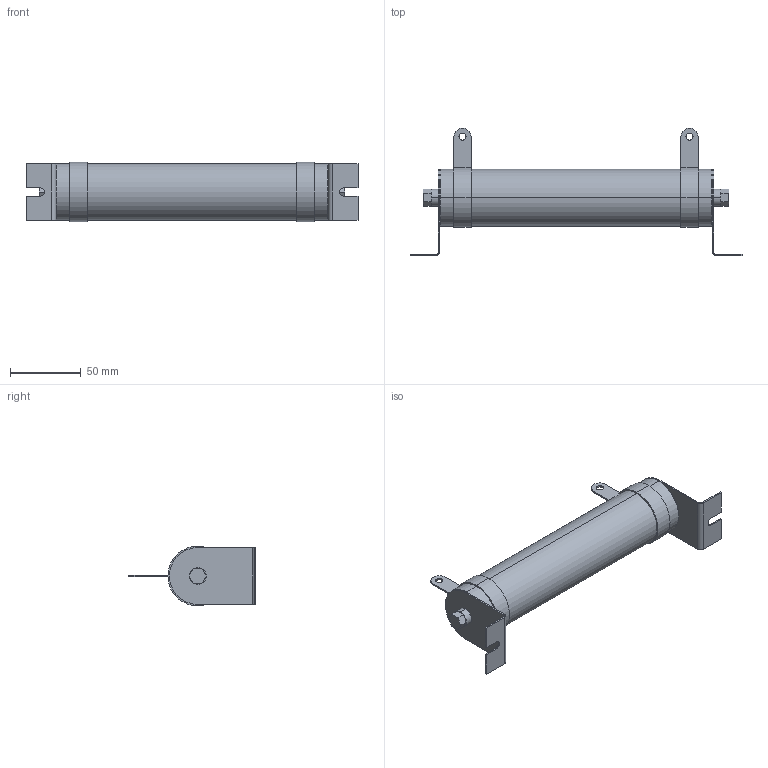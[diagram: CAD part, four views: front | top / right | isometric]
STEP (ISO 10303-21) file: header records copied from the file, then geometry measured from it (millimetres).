
FILE_DESCRIPTION (( 'STEP AP203' ), '1' );
FILE_NAME ('IRT-200-160.STEP', '2022-11-16T11:58:13', ( '' ), ( '' ), 'SwSTEP 2.0', 'SolidWorks 2018', '' );
FILE_SCHEMA (( 'CONFIG_CONTROL_DESIGN' ));
Length unit declared in the file: millimetre
Products named in the file (1): IRT-200-160
Bounding box: 234 x 90 x 42 mm (x, y, z)
Volume: 252987.3 mm3; surface area: 36827.4 mm2
Topology: 1 solids, 1 shells, 94 faces, 222 edges, 140 vertices
Faces by surface type: plane 56, cylinder 38
Entity records: 2787 total; most frequent: DIRECTION 500, CARTESIAN_POINT 457, ORIENTED_EDGE 444, EDGE_CURVE 222, AXIS2_PLACEMENT_3D 183, VERTEX_POINT 140, LINE 134, VECTOR 134
